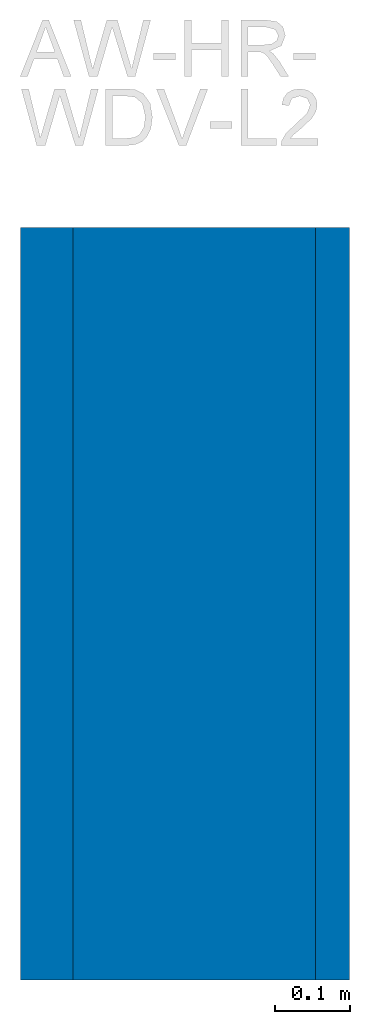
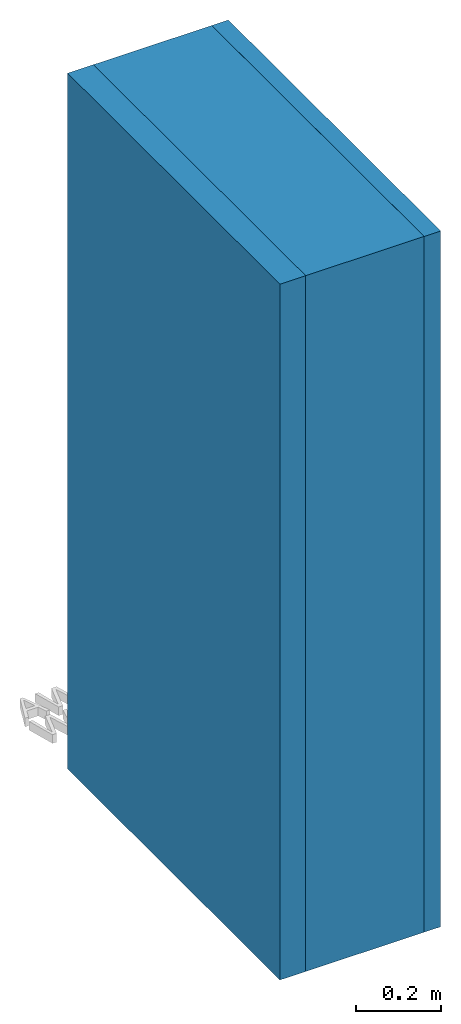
# Not in any storey, part 1 of 2: 3 walls, 1 element without a shape of its own.
"""IFC4 model written with IfcOpenShell, lengths in metres."""

from ifc_helpers import new_model, entity, si_unit, converted_unit, derived_unit, direction, frame, origin, place, context, subcontext, project, spatial, indexed_curve, outline, extrude, material, constituent, constituent_set, type_object, element, aggregate, save


model = new_model("IFC4")

# Units and contexts
model_context = context("Model", 3, precision=1e-05, world=origin(), true_north=direction((6.123031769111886e-17, 1.0)))
body_context = subcontext(model_context, "Body", "Model", "MODEL_VIEW")
ifc_project = project(units=[si_unit("LENGTHUNIT", "METRE"), si_unit("AREAUNIT", "SQUARE_METRE"), si_unit("VOLUMEUNIT", "CUBIC_METRE"), converted_unit("PLANEANGLEUNIT", "DEGREE", entity("IfcRatioMeasure", 0.017453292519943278), si_unit("PLANEANGLEUNIT", "RADIAN"), dimensions=[0, 0, 0, 0, 0, 0, 0]), si_unit("MASSUNIT", "GRAM", prefix="KILO"), derived_unit("MASSDENSITYUNIT", [(si_unit("MASSUNIT", "GRAM", prefix="KILO"), 1), (si_unit("LENGTHUNIT", "METRE"), -3)]), derived_unit("IONCONCENTRATIONUNIT", [(si_unit("MASSUNIT", "GRAM", prefix="KILO"), 1), (si_unit("LENGTHUNIT", "METRE"), -3)]), derived_unit("MOMENTOFINERTIAUNIT", [(si_unit("LENGTHUNIT", "METRE"), 4)]), si_unit("TIMEUNIT", "SECOND"), si_unit("FREQUENCYUNIT", "HERTZ"), si_unit("THERMODYNAMICTEMPERATUREUNIT", "DEGREE_CELSIUS"), derived_unit("THERMALTRANSMITTANCEUNIT", [(si_unit("MASSUNIT", "GRAM", prefix="KILO"), 1), (si_unit("THERMODYNAMICTEMPERATUREUNIT", "KELVIN"), -1), (si_unit("TIMEUNIT", "SECOND"), -3)]), derived_unit("THERMALCONDUCTANCEUNIT", [(si_unit("MASSUNIT", "GRAM", prefix="KILO"), 1), (si_unit("THERMODYNAMICTEMPERATUREUNIT", "KELVIN"), -1), (si_unit("TIMEUNIT", "SECOND"), -3), (si_unit("LENGTHUNIT", "METRE"), 1)]), derived_unit("VOLUMETRICFLOWRATEUNIT", [(si_unit("LENGTHUNIT", "METRE"), 3), (si_unit("TIMEUNIT", "SECOND"), -1)]), derived_unit("MASSFLOWRATEUNIT", [(si_unit("MASSUNIT", "GRAM", prefix="KILO"), 1), (si_unit("TIMEUNIT", "SECOND"), -1)]), derived_unit("ROTATIONALFREQUENCYUNIT", [(si_unit("TIMEUNIT", "SECOND"), -1)]), si_unit("ELECTRICCURRENTUNIT", "AMPERE"), si_unit("ELECTRICVOLTAGEUNIT", "VOLT"), si_unit("POWERUNIT", "WATT"), si_unit("FORCEUNIT", "NEWTON", prefix="KILO"), si_unit("ILLUMINANCEUNIT", "LUX"), si_unit("LUMINOUSFLUXUNIT", "LUMEN"), si_unit("LUMINOUSINTENSITYUNIT", "CANDELA"), derived_unit("USERDEFINED", [(si_unit("MASSUNIT", "GRAM", prefix="KILO"), -1), (si_unit("LENGTHUNIT", "METRE"), -2), (si_unit("TIMEUNIT", "SECOND"), 3), (si_unit("LUMINOUSFLUXUNIT", "LUMEN"), 1)]), derived_unit("USERDEFINED", [(si_unit("MASSUNIT", "GRAM", prefix="KILO"), 1), (si_unit("TIMEUNIT", "SECOND"), -3), (si_unit("LENGTHUNIT", "METRE"), 3), (si_unit("ELECTRICCURRENTUNIT", "AMPERE"), -2)]), derived_unit("SOUNDPOWERUNIT", [(si_unit("MASSUNIT", "GRAM", prefix="KILO"), 1), (si_unit("TIMEUNIT", "SECOND"), -3), (si_unit("LENGTHUNIT", "METRE"), 2)]), derived_unit("SOUNDPRESSUREUNIT", [(si_unit("MASSUNIT", "GRAM", prefix="KILO"), 1), (si_unit("LENGTHUNIT", "METRE"), -1), (si_unit("TIMEUNIT", "SECOND"), -2)]), derived_unit("LINEARVELOCITYUNIT", [(si_unit("LENGTHUNIT", "METRE"), 1), (si_unit("TIMEUNIT", "SECOND"), -1)]), si_unit("PRESSUREUNIT", "PASCAL"), derived_unit("USERDEFINED", [(si_unit("MASSUNIT", "GRAM", prefix="KILO"), 1), (si_unit("LENGTHUNIT", "METRE"), -2), (si_unit("TIMEUNIT", "SECOND"), -2)]), derived_unit("LINEARFORCEUNIT", [(si_unit("MASSUNIT", "GRAM", prefix="KILO"), 1), (si_unit("TIMEUNIT", "SECOND"), -2)]), derived_unit("PLANARFORCEUNIT", [(si_unit("MASSUNIT", "GRAM", prefix="KILO"), 1), (si_unit("LENGTHUNIT", "METRE"), -1), (si_unit("TIMEUNIT", "SECOND"), -2)]), derived_unit("SPECIFICHEATCAPACITYUNIT", [(si_unit("THERMODYNAMICTEMPERATUREUNIT", "KELVIN"), -1), (si_unit("LENGTHUNIT", "METRE"), 2), (si_unit("TIMEUNIT", "SECOND"), -2)]), derived_unit("HEATINGVALUEUNIT", [(si_unit("LENGTHUNIT", "METRE"), 2), (si_unit("TIMEUNIT", "SECOND"), -2)]), derived_unit("VAPORPERMEABILITYUNIT", [(si_unit("LENGTHUNIT", "METRE"), -1), (si_unit("TIMEUNIT", "SECOND"), 1)]), derived_unit("DYNAMICVISCOSITYUNIT", [(si_unit("MASSUNIT", "GRAM", prefix="KILO"), 1), (si_unit("TIMEUNIT", "SECOND"), -1), (si_unit("LENGTHUNIT", "METRE"), -1)]), derived_unit("THERMALEXPANSIONCOEFFICIENTUNIT", [(si_unit("THERMODYNAMICTEMPERATUREUNIT", "KELVIN"), -1)]), derived_unit("MODULUSOFELASTICITYUNIT", [(si_unit("MASSUNIT", "GRAM", prefix="KILO"), 1), (si_unit("LENGTHUNIT", "METRE"), -1), (si_unit("TIMEUNIT", "SECOND"), -2)]), derived_unit("ISOTHERMALMOISTURECAPACITYUNIT", [(si_unit("LENGTHUNIT", "METRE"), 3), (si_unit("MASSUNIT", "GRAM", prefix="KILO"), -1)]), derived_unit("MOISTUREDIFFUSIVITYUNIT", [(si_unit("TIMEUNIT", "SECOND"), -1), (si_unit("LENGTHUNIT", "METRE"), 2)])], contexts=[model_context])

# Site
site_placement = place(None, origin())
site = spatial("IfcSite", under=ifc_project, at=site_placement, Name="Default", CompositionType="ELEMENT")

# Assembly, walls
assembly_placement = place(site_placement, origin())
assembly = element("IfcElementAssembly", 1, at=assembly_placement, inside=site, Name="Wände Baugruppe:fbimSg_Wall_bc_WOD_vis_at_NTR_natuREbuilt_AW-HR-WDV-L2_43,7cm", ObjectType="Wände Baugruppe:fbimSg_Wall_bc_WOD_vis_at_NTR_natuREbuilt_AW-HR-WDV-L2_43,7cm", AssemblyPlace="NOTDEFINED", PredefinedType="USERDEFINED")
ifc_material_1 = material(Name="fbim_14153515_AT_001_Silikatputz_KP_1.5mm")
ifc_constituent_1 = constituent(ifc_material_1, Name="fbim_14153515_AT_001_Silikatputz_KP_1.5mm")
ifc_material_2 = material(Name="fbim_14100530_AT_Holzfaserdaemmung")
ifc_constituent_2 = constituent(ifc_material_2, Name="fbim_14100530_AT_Holzfaserdaemmung")
ifc_constituent_set_1 = constituent_set(constituents=[ifc_constituent_1, ifc_constituent_2], Name="Basiswand:fbimSg_Wall_dp_WOD_vis_at_NTR_natuREbuilt_AWRv-l_Lopas2_a_7cm")
wall_type_1 = type_object("IfcWallType", Name="Basiswand:fbimSg_Wall_dp_WOD_vis_at_NTR_natuREbuilt_AWRv-l_Lopas2_a_7cm", PredefinedType="STANDARD", material=ifc_constituent_set_1)
wall_1_placement = place(assembly_placement, frame((-0.7180934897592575, 47.653690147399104, 0.0), z_axis=(0.0, 0.0, 1.0), x_axis=(0.0, -1.0, 0.0)))
wall_1 = element("IfcWall", 2, at=wall_1_placement, type_object=wall_type_1, material=ifc_constituent_set_1, Name="Basiswand:fbimSg_Wall_dp_WOD_vis_at_NTR_natuREbuilt_AWRv-l_Lopas2_a_7cm", ObjectType="Basiswand:fbimSg_Wall_dp_WOD_vis_at_NTR_natuREbuilt_AWRv-l_Lopas2_a_7cm", PredefinedType="NOTDEFINED", context=body_context, shape_type="SweptSolid", body=[
    extrude(outline(indexed_curve([(-0.025000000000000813, -0.49999999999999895), (0.02499999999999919, -0.49999999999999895), (0.025000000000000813, 0.49999999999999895), (-0.02499999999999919, 0.49999999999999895), (-0.025000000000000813, -0.49999999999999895)], self_intersect=False)), frame((0.49999999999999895, 0.010000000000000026, 0.0), z_axis=(0.0, 0.0, 1.0), x_axis=(0.0, -1.0, 0.0)), (0.0, 0.0, 1.0), 1.9999999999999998),
    extrude(outline(indexed_curve([(-0.01000000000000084, -0.49999999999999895), (0.009999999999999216, -0.49999999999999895), (0.01000000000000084, 0.49999999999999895), (-0.009999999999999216, 0.49999999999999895), (-0.01000000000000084, -0.49999999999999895)], self_intersect=False)), frame((0.49999999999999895, -0.025, 0.0), z_axis=(0.0, 0.0, 1.0), x_axis=(0.0, 1.0, 0.0)), (0.0, 0.0, 1.0), 1.9999999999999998),
])
ifc_material_3 = material(Name="fbim_14100500_at_NTR_Strohdaemmung")
ifc_constituent_3 = constituent(ifc_material_3, Name="fbim_14100500_at_NTR_Strohdaemmung")
ifc_material_4 = material(Name="fbim_12401520_AT_OSB")
ifc_constituent_4 = constituent(ifc_material_4, Name="fbim_12401520_AT_OSB")
ifc_constituent_set_2 = constituent_set(constituents=[ifc_constituent_3, ifc_constituent_4], Name="Basiswand:fbimSg_Wall_sb_WOD_vis_at_NTR_natuREbuilt_AWRv-l_Lopas2_k_32,2cm")
wall_type_2 = type_object("IfcWallType", Name="Basiswand:fbimSg_Wall_sb_WOD_vis_at_NTR_natuREbuilt_AWRv-l_Lopas2_k_32,2cm", PredefinedType="STANDARD", material=ifc_constituent_set_2)
wall_2_placement = place(assembly_placement, frame((-0.5220934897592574, 47.653690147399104, 0.0), z_axis=(0.0, 0.0, 1.0), x_axis=(0.0, -1.0, 0.0)))
wall_2 = element("IfcWall", 3, at=wall_2_placement, type_object=wall_type_2, material=ifc_constituent_set_2, Name="Basiswand:fbimSg_Wall_sb_WOD_vis_at_NTR_natuREbuilt_AWRv-l_Lopas2_k_32,2cm", ObjectType="Basiswand:fbimSg_Wall_sb_WOD_vis_at_NTR_natuREbuilt_AWRv-l_Lopas2_k_32,2cm", PredefinedType="NOTDEFINED", context=body_context, shape_type="SweptSolid", body=[
    extrude(outline(indexed_curve([(-0.011000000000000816, -0.49999999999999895), (0.010999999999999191, -0.49999999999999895), (0.011000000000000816, 0.49999999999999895), (-0.010999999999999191, 0.49999999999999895), (-0.011000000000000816, -0.49999999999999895)], self_intersect=False)), frame((0.49999999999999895, 0.15000000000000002, 0.0), z_axis=(0.0, 0.0, 1.0), x_axis=(0.0, -1.0, 0.0)), (0.0, 0.0, 1.0), 1.9999999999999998),
    extrude(outline(indexed_curve([(-0.15000000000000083, -0.49999999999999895), (0.14999999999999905, -0.49999999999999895), (0.1500000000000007, 0.49999999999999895), (-0.1499999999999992, 0.49999999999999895), (-0.15000000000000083, -0.49999999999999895)], self_intersect=False)), frame((0.49999999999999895, -0.010999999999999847, 0.0), z_axis=(0.0, 0.0, 1.0), x_axis=(0.0, 1.0, 0.0)), (0.0, 0.0, 1.0), 1.9999999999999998),
])
ifc_material_5 = material(Name="fbim_16200505_at_NTR_Lehm_Grundputz", Category="Verschiedene")
ifc_constituent_5 = constituent(ifc_material_5, Name="fbim_16200505_at_NTR_Lehm_Grundputz", Category="Verschiedene")
ifc_material_6 = material(Name="fbim_16200510_at_NTR_Lehm_Duennputz", Category="Verschiedene")
ifc_constituent_6 = constituent(ifc_material_6, Name="fbim_16200510_at_NTR_Lehm_Duennputz", Category="Verschiedene")
ifc_constituent_set_3 = constituent_set(constituents=[ifc_constituent_5, ifc_constituent_6], Name="Basiswand:fbimSg_Wall_dp_PLA_vis_at_NTR_natuREbuilt_AWRv-l_Lopas2_i_4,5cm")
wall_type_3 = type_object("IfcWallType", Name="Basiswand:fbimSg_Wall_dp_PLA_vis_at_NTR_natuREbuilt_AWRv-l_Lopas2_i_4,5cm", PredefinedType="STANDARD", material=ifc_constituent_set_3)
wall_3_placement = place(assembly_placement, frame((-0.33859348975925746, 47.653690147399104, 0.0), z_axis=(0.0, 0.0, 1.0), x_axis=(0.0, -1.0, 0.0)))
wall_3 = element("IfcWall", 4, at=wall_3_placement, type_object=wall_type_3, material=ifc_constituent_set_3, Name="Basiswand:fbimSg_Wall_dp_PLA_vis_at_NTR_natuREbuilt_AWRv-l_Lopas2_i_4,5cm", ObjectType="Basiswand:fbimSg_Wall_dp_PLA_vis_at_NTR_natuREbuilt_AWRv-l_Lopas2_i_4,5cm", PredefinedType="NOTDEFINED", context=body_context, shape_type="SweptSolid", body=[
    extrude(outline(indexed_curve([(-0.002500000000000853, -0.49999999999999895), (0.002499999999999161, -0.49999999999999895), (0.0025000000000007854, 0.49999999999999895), (-0.0024999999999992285, 0.49999999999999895), (-0.002500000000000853, -0.49999999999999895)], self_intersect=False)), frame((0.49999999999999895, 0.02000000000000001, 0.0), z_axis=(0.0, 0.0, 1.0), x_axis=(0.0, -1.0, 0.0)), (0.0, 0.0, 1.0), 1.9999999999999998),
    extrude(outline(indexed_curve([(-0.020000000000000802, -0.49999999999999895), (0.019999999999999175, -0.49999999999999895), (0.020000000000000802, 0.49999999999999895), (-0.019999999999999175, 0.49999999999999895), (-0.020000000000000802, -0.49999999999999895)], self_intersect=False)), frame((0.49999999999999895, -0.002499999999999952, 0.0), z_axis=(0.0, 0.0, 1.0), x_axis=(0.0, 1.0, 0.0)), (0.0, 0.0, 1.0), 1.9999999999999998),
])
aggregate(assembly, [wall_1, wall_2, wall_3])

save(model, "model.ifc")
